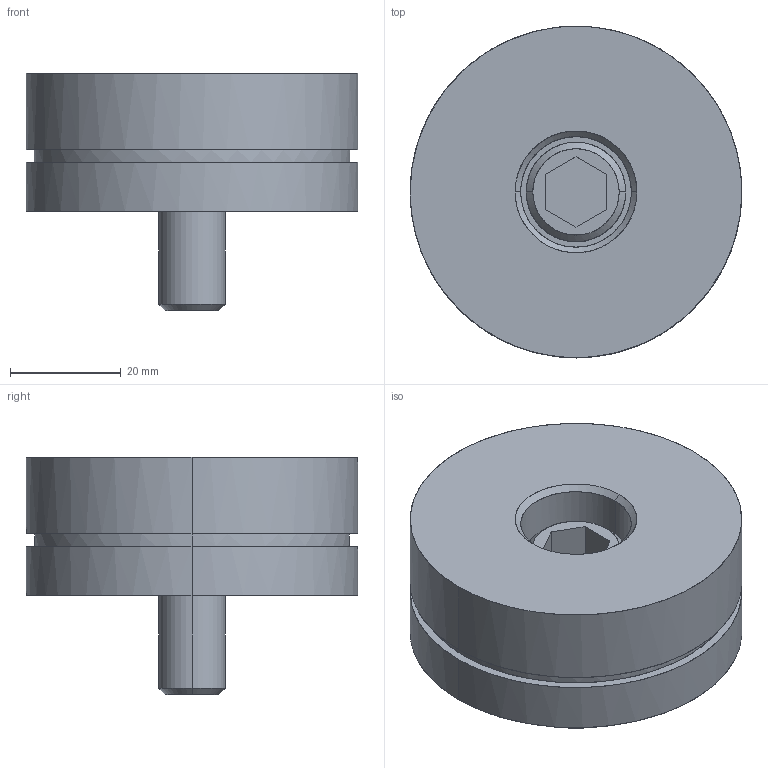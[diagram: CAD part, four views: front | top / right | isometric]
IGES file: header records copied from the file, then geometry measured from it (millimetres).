
Global section: file name: E:\UnigraphicsGraphicData\MISUMI_PRESS-PARTS\IGES\3d_sbn60-25-n_00584_r00.igs; native system: NX V5.0; preprocessor: UGS NX IGES V5.0; author: MISUMI; date: 20110105.162428; units: millimetre
Bounding box: 60 x 60 x 43 mm (x, y, z)
Surface area: 14283.3 mm2 (no closed solid volume)
Topology: 0 solids, 0 shells, 35 faces, 276 edges, 276 vertices
Faces by surface type: bspline 35
